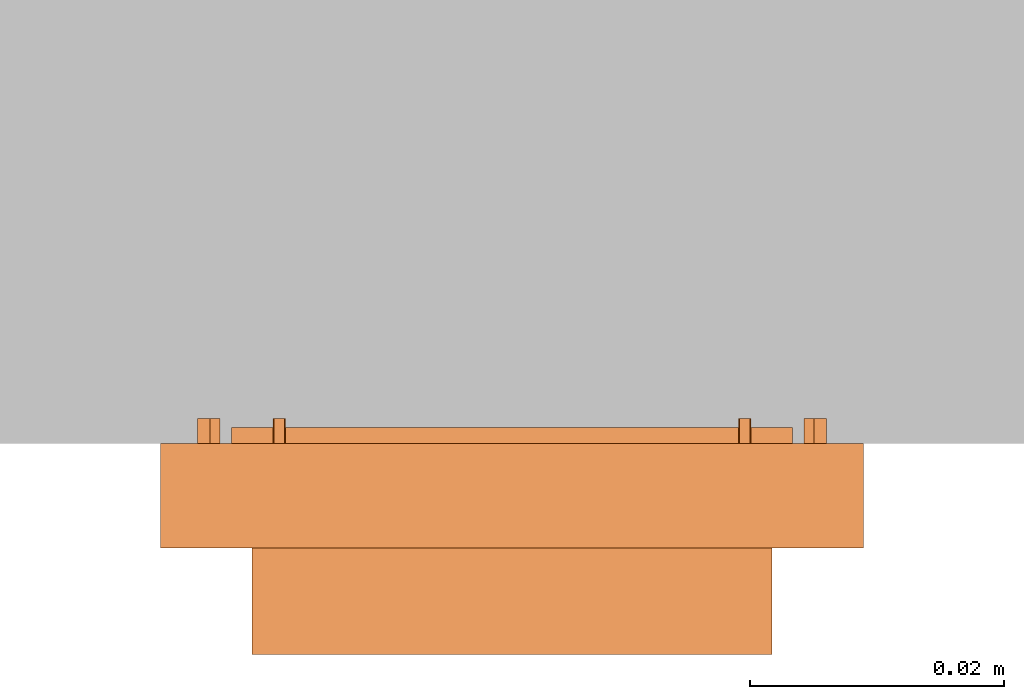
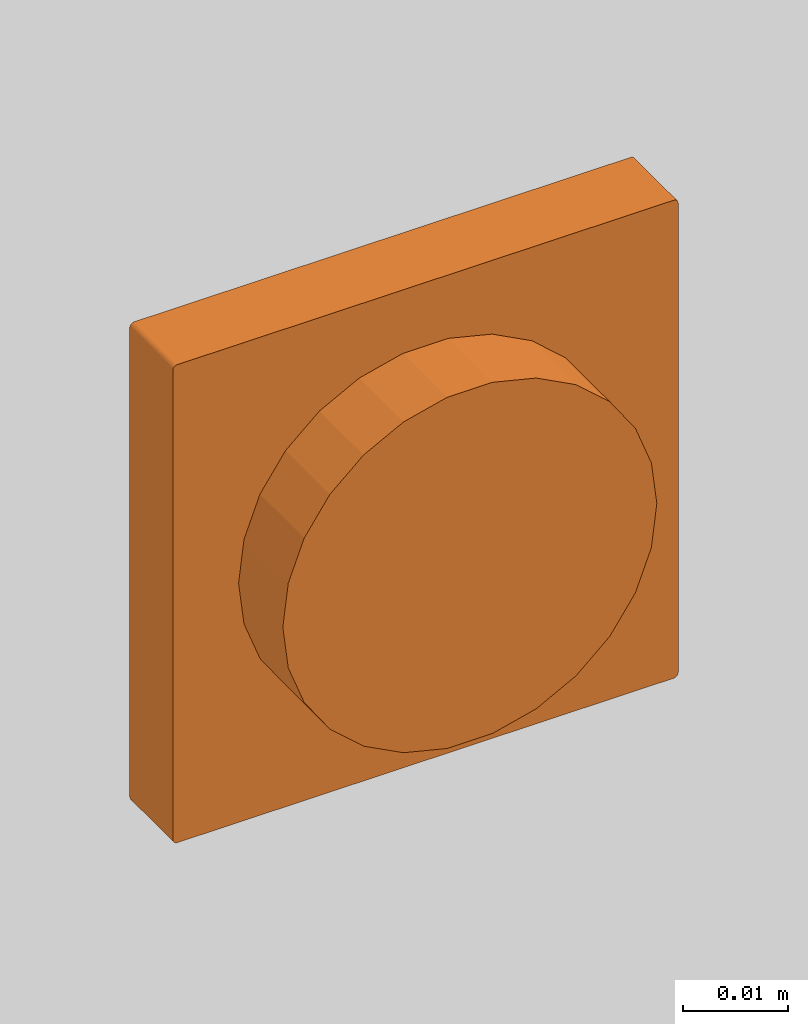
# One storey, part 2 of 2: 1 proxy.
"""IFC2X3 building model written with IfcOpenShell, lengths in metres."""

from ifc_helpers import new_model, entity, si_unit, converted_unit, derived_unit, direction, frame, frame_2d, origin, origin_2d_with_axis, place, context, subcontext, project, spatial, polyline, circle_curve, parameter, trimmed, segment, composite_curve, circle, outline, extrude, source, transform, mapped, material, type_object, type_shapes, element, save


model = new_model("IFC2X3")

# Units and contexts
model_context = context("Model", 3, precision=1e-05, world=origin(), true_north=direction((6.12303176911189e-17, 1.0)))
body_context = subcontext(model_context, "Body", "Model", "MODEL_VIEW")
ifc_project = project(units=[si_unit("LENGTHUNIT", "METRE"), si_unit("AREAUNIT", "SQUARE_METRE"), si_unit("VOLUMEUNIT", "CUBIC_METRE"), converted_unit("PLANEANGLEUNIT", "DEGREE", entity("IfcRatioMeasure", 0.0174532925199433), si_unit("PLANEANGLEUNIT", "RADIAN"), dimensions=[0, 0, 0, 0, 0, 0, 0]), si_unit("MASSUNIT", "GRAM", prefix="KILO"), si_unit("TIMEUNIT", "SECOND"), si_unit("FREQUENCYUNIT", "HERTZ"), si_unit("THERMODYNAMICTEMPERATUREUNIT", "DEGREE_CELSIUS"), derived_unit("THERMALTRANSMITTANCEUNIT", [(si_unit("MASSUNIT", "GRAM", prefix="KILO"), 1), (si_unit("THERMODYNAMICTEMPERATUREUNIT", "KELVIN"), -1), (si_unit("TIMEUNIT", "SECOND"), -3)]), derived_unit("VOLUMETRICFLOWRATEUNIT", [(si_unit("LENGTHUNIT", "METRE"), 3), (si_unit("TIMEUNIT", "SECOND"), -1)]), si_unit("ELECTRICCURRENTUNIT", "AMPERE"), si_unit("ELECTRICVOLTAGEUNIT", "VOLT"), si_unit("POWERUNIT", "WATT"), si_unit("FORCEUNIT", "NEWTON", prefix="KILO"), si_unit("ILLUMINANCEUNIT", "LUX"), si_unit("LUMINOUSFLUXUNIT", "LUMEN"), si_unit("LUMINOUSINTENSITYUNIT", "CANDELA"), derived_unit("USERDEFINED", [(si_unit("MASSUNIT", "GRAM", prefix="KILO"), -1), (si_unit("LENGTHUNIT", "METRE"), -2), (si_unit("TIMEUNIT", "SECOND"), 3), (si_unit("LUMINOUSFLUXUNIT", "LUMEN"), 1)]), derived_unit("LINEARVELOCITYUNIT", [(si_unit("LENGTHUNIT", "METRE"), 1), (si_unit("TIMEUNIT", "SECOND"), -1)]), si_unit("PRESSUREUNIT", "PASCAL"), derived_unit("USERDEFINED", [(si_unit("LENGTHUNIT", "METRE"), -2), (si_unit("MASSUNIT", "GRAM", prefix="KILO"), 1), (si_unit("TIMEUNIT", "SECOND"), -2)])], contexts=[model_context])

# Site, building, storey
site_placement = place(None, origin())
site = spatial("IfcSite", under=ifc_project, at=site_placement, Name="Default", CompositionType="ELEMENT")
building_placement = place(site_placement, origin())
building = spatial("IfcBuilding", under=site, at=building_placement, CompositionType="ELEMENT")
storey_placement = place(building_placement, origin())
storey = spatial("IfcBuildingStorey", under=building, at=storey_placement, Name="Ebene 0", CompositionType="ELEMENT", Elevation=0.0)

# Proxy
ifc_material = material(Name="White")
building_element_proxy_type = type_object("IfcBuildingElementProxyType", Name="GIRA_065226_ENG", PredefinedType="NOTDEFINED", material=ifc_material)
shared_shape = source(origin(), body_context, "Body", "SweptSolid", [
    extrude(outline(polyline([(0.0124903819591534, -0.0367577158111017), (0.0125960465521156, -0.0367946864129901), (0.0127072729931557, -0.0368072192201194), (0.0128184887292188, -0.0367946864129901), (0.0129241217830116, -0.0367577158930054), (0.0130188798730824, -0.0366981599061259), (0.0130980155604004, -0.0366190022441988), (0.0131575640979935, -0.0365242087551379), (0.0367577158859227, 0.0124903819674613), (0.0367946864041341, 0.0125960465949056), (0.0368072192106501, 0.012707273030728), (0.0367946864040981, 0.0128184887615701), (0.0367577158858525, 0.012924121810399), (0.0366981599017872, 0.0130188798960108), (0.0366190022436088, 0.0130980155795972), (0.0365242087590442, 0.0131575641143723), (-0.0124903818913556, 0.0367577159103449), (-0.0125960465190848, 0.036794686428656), (-0.0127072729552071, 0.0368072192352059), (-0.0128184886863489, 0.0367946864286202), (-0.0129241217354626, 0.0367577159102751), (-0.0130188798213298, 0.0366981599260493), (-0.0130980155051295, 0.0366190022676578), (-0.0131575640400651, 0.0365242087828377), (-0.0367577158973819, -0.0124903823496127), (-0.0367946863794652, -0.0125960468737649), (-0.036807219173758, -0.012707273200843), (-0.0367946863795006, -0.0128184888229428), (-0.0367577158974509, -0.0129241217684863), (-0.036698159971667, -0.0130188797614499), (-0.0366190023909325, -0.0130980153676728), (-0.0365242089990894, -0.0131575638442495), (0.0124903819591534, -0.0367577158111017)])), frame((0.0, 0.0, 0.00719999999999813), z_axis=(0.0, 0.0, 1.0), x_axis=(0.433823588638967, -0.900997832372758, 0.0)), (0.0, 0.0, 1.0), 0.000999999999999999),
    extrude(outline(composite_curve([segment(trimmed(circle_curve(frame_2d((0.0, -0.00392499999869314), x_axis=(1.0, 0.0)), 0.00990000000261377), [parameter(3.56222124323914e-13)], [parameter(52.4601073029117)], True, "PARAMETER"), True, "CONTINUOUS"), segment(polyline([(0.00603220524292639, 0.00392499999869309), (-0.00603220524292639, 0.00392499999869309)]), True, "CONTINUOUS"), segment(trimmed(circle_curve(frame_2d((0.0, -0.00392499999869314), x_axis=(1.0, 0.0)), 0.00990000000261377), [parameter(127.539892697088)], [parameter(180.0)], True, "PARAMETER"), True, "CONTINUOUS"), segment(trimmed(circle_curve(frame_2d((0.0, -0.00392499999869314), x_axis=(1.0, 0.0)), 0.00990000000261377), [parameter(180.0)], [parameter(360.0)], True, "PARAMETER"), True, "CONTINUOUS")], self_intersect=False), holes=[composite_curve([segment(trimmed(circle_curve(frame_2d((0.0, -0.00392500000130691), x_axis=(-1.0, 0.0)), 0.00525), [parameter(89.9999999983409)], [parameter(270.00000000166)], True, "PARAMETER"), False, "CONTINUOUS"), segment(trimmed(circle_curve(frame_2d((0.0, -0.00392500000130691), x_axis=(-1.0, 0.0)), 0.00525), [parameter(269.999999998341)], [parameter(90.0000000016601)], True, "PARAMETER"), False, "CONTINUOUS")], self_intersect=False)]), frame((0.0, -0.00392500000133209, 0.000199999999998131), z_axis=(0.0, 0.0, 1.0), x_axis=(-1.0, 0.0, 0.0)), (0.0, 0.0, 1.0), 0.006),
    extrude(outline(composite_curve([segment(trimmed(circle_curve(origin_2d_with_axis(), 0.0220999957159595), [parameter(0.0)], [parameter(180.0)], True, "PARAMETER"), True, "CONTINUOUS"), segment(trimmed(circle_curve(origin_2d_with_axis(), 0.0220999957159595), [parameter(180.0)], [parameter(360.0)], True, "PARAMETER"), True, "CONTINUOUS")], self_intersect=False), holes=[composite_curve([segment(trimmed(circle_curve(frame_2d((4.99625952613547e-09, 1.77921753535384e-09), x_axis=(-1.0, 0.0)), 0.00990000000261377), [parameter(127.539892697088)], [parameter(180.0)], True, "PARAMETER"), False, "CONTINUOUS"), segment(polyline([(0.00603221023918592, -0.0078499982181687), (0.0140000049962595, -0.0078499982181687)]), True, "CONTINUOUS"), segment(polyline([(0.0140000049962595, -0.0078499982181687), (0.0140000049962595, -0.0153999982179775)]), True, "CONTINUOUS"), segment(trimmed(circle_curve(frame_2d((0.0122500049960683, -0.0153999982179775), x_axis=(1.0, 0.0)), 0.00175000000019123), [parameter(269.999999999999)], [parameter(360.0)], True, "PARAMETER"), False, "CONTINUOUS"), segment(polyline([(0.0122500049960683, -0.017149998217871), (0.0068000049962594, -0.017149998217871)]), True, "CONTINUOUS"), segment(polyline([(0.0068000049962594, -0.017149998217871), (0.0068000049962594, -0.0181499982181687)]), True, "CONTINUOUS"), segment(polyline([(0.0068000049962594, -0.0181499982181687), (-0.000999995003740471, -0.0181499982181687)]), True, "CONTINUOUS"), segment(polyline([(-0.000999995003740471, -0.0181499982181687), (-0.000999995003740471, -0.0171499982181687)]), True, "CONTINUOUS"), segment(polyline([(-0.000999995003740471, -0.0171499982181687), (-0.0122499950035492, -0.0171499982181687)]), True, "CONTINUOUS"), segment(trimmed(circle_curve(frame_2d((-0.0122499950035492, -0.0153999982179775), x_axis=(1.0, 0.0)), 0.00175000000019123), [parameter(180.0)], [parameter(269.999999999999)], True, "PARAMETER"), False, "CONTINUOUS"), segment(polyline([(-0.0139999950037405, -0.0153999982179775), (-0.0139999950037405, -0.0078499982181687)]), True, "CONTINUOUS"), segment(polyline([(-0.0139999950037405, -0.0078499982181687), (-0.00603220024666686, -0.0078499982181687)]), True, "CONTINUOUS"), segment(trimmed(circle_curve(frame_2d((4.99625952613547e-09, 1.77921753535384e-09), x_axis=(-1.0, 0.0)), 0.00990000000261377), [parameter(3.05333249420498e-13)], [parameter(52.4601073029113)], True, "PARAMETER"), False, "CONTINUOUS"), segment(trimmed(circle_curve(frame_2d((4.99625952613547e-09, 1.77921753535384e-09), x_axis=(-1.0, 0.0)), 0.00990000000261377), [parameter(180.0)], [parameter(0.0)], True, "PARAMETER"), False, "CONTINUOUS")], self_intersect=False), composite_curve([segment(trimmed(circle_curve(frame_2d((0.0050000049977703, 0.0185000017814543), x_axis=(1.0, 0.0)), 0.00200000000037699), [parameter(180.0)], [parameter(360.0)], True, "PARAMETER"), False, "CONTINUOUS"), segment(trimmed(circle_curve(frame_2d((0.0050000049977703, 0.0185000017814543), x_axis=(1.0, 0.0)), 0.00200000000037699), [parameter(4.07110999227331e-13)], [parameter(180.0)], True, "PARAMETER"), False, "CONTINUOUS")], self_intersect=False)]), frame((-4.99624068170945e-09, -1.78185648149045e-09, -0.00130000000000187)), (0.0, 0.0, 1.0), 0.0075),
    extrude(outline(composite_curve([segment(trimmed(circle_curve(origin_2d_with_axis(), 0.00500000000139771), [parameter(306.869897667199)], [parameter(53.1301023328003)], True, "PARAMETER"), True, "CONTINUOUS"), segment(polyline([(0.00300000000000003, 0.00399999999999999), (-0.00300000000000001, 0.00400000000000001)]), True, "CONTINUOUS"), segment(trimmed(circle_curve(origin_2d_with_axis(), 0.00500000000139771), [parameter(126.8698976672)], [parameter(233.1301023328)], True, "PARAMETER"), True, "CONTINUOUS"), segment(polyline([(-0.00300000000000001, -0.00399999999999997), (0.00300000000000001, -0.00399999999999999)]), True, "CONTINUOUS")], self_intersect=False)), frame((0.0, 0.0, -0.000800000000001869), z_axis=(0.0, 0.0, 1.0), x_axis=(-1.0, 0.0, 0.0)), (0.0, 0.0, 1.0), 0.007),
    extrude(outline(composite_curve([segment(polyline([(-0.00049999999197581, -0.000399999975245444), (0.000499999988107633, -0.000399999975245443)]), True, "CONTINUOUS"), segment(trimmed(circle_curve(frame_2d((0.000800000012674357, 0.0), x_axis=(-1.0, 0.0)), 0.000499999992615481), [parameter(53.1300982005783)], [parameter(306.869900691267)], True, "PARAMETER"), True, "CONTINUOUS"), segment(polyline([(0.000499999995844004, 0.000399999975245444), (-0.000499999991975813, 0.000399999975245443)]), True, "CONTINUOUS"), segment(polyline([(-0.000499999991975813, 0.000399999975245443), (-0.00049999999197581, -0.000399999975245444)]), True, "CONTINUOUS")], self_intersect=False)), frame((0.0183499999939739, 0.0243000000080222, -0.00200000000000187), z_axis=(0.0, 0.0, 1.0), x_axis=(0.0, -1.0, 0.0)), (0.0, 0.0, 1.0), 0.0082),
    extrude(outline(composite_curve([segment(polyline([(-0.00049999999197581, -0.000399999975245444), (0.000499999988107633, -0.000399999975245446)]), True, "CONTINUOUS"), segment(trimmed(circle_curve(frame_2d((0.000800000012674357, 0.0), x_axis=(-1.0, 0.0)), 0.000499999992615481), [parameter(53.1300982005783)], [parameter(306.869900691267)], True, "PARAMETER"), True, "CONTINUOUS"), segment(polyline([(0.000499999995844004, 0.000399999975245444), (-0.000499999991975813, 0.000399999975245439)]), True, "CONTINUOUS"), segment(polyline([(-0.000499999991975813, 0.000399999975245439), (-0.00049999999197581, -0.000399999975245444)]), True, "CONTINUOUS")], self_intersect=False)), frame((-0.0183500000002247, 0.0243000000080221, -0.00200000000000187), z_axis=(0.0, 0.0, 1.0), x_axis=(0.0, -1.0, 0.0)), (0.0, 0.0, 1.0), 0.0082),
    extrude(outline(composite_curve([segment(polyline([(-0.000399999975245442, -0.000499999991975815), (0.000399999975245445, -0.000499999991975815)]), True, "CONTINUOUS"), segment(polyline([(0.000399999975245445, -0.000499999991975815), (0.000399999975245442, 0.000499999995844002)]), True, "CONTINUOUS"), segment(trimmed(circle_curve(frame_2d((0.0, 0.000800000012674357), x_axis=(0.0, -1.0)), 0.000499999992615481), [parameter(53.1300993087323)], [parameter(306.869901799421)], True, "PARAMETER"), True, "CONTINUOUS"), segment(polyline([(-0.000399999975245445, 0.000499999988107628), (-0.000399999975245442, -0.000499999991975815)]), True, "CONTINUOUS")], self_intersect=False)), frame((0.0183499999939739, -0.0243000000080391, -0.00200000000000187)), (0.0, 0.0, 1.0), 0.0082),
    extrude(outline(composite_curve([segment(polyline([(-0.000399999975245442, -0.000499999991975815), (0.000399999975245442, -0.000499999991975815)]), True, "CONTINUOUS"), segment(polyline([(0.000399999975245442, -0.000499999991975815), (0.000399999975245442, 0.000499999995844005)]), True, "CONTINUOUS"), segment(trimmed(circle_curve(frame_2d((0.0, 0.000800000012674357), x_axis=(0.0, -1.0)), 0.000499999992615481), [parameter(53.1300993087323)], [parameter(306.869901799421)], True, "PARAMETER"), True, "CONTINUOUS"), segment(polyline([(-0.000399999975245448, 0.000499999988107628), (-0.000399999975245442, -0.000499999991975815)]), True, "CONTINUOUS")], self_intersect=False)), frame((-0.0183500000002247, -0.024300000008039, -0.00200000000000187)), (0.0, 0.0, 1.0), 0.0082),
    extrude(outline(composite_curve([segment(polyline([(-0.000499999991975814, -0.000399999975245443), (0.000499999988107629, -0.000399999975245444)]), True, "CONTINUOUS"), segment(trimmed(circle_curve(frame_2d((0.000800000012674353, 0.0), x_axis=(-1.0, 0.0)), 0.000499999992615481), [parameter(53.1300982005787)], [parameter(306.869900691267)], True, "PARAMETER"), True, "CONTINUOUS"), segment(polyline([(0.000499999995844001, 0.000399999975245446), (-0.000499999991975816, 0.000399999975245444)]), True, "CONTINUOUS"), segment(polyline([(-0.000499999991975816, 0.000399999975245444), (-0.000499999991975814, -0.000399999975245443)]), True, "CONTINUOUS")], self_intersect=False)), frame((0.0243000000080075, -0.0183499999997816, -0.00200000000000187), z_axis=(0.0, 0.0, 1.0), x_axis=(-1.0, 0.0, 0.0)), (0.0, 0.0, 1.0), 0.0082),
    extrude(outline(composite_curve([segment(polyline([(-0.000499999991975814, -0.000399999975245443), (0.000499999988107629, -0.000399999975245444)]), True, "CONTINUOUS"), segment(trimmed(circle_curve(frame_2d((0.000800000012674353, 0.0), x_axis=(-1.0, 0.0)), 0.000499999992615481), [parameter(53.1300982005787)], [parameter(306.869900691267)], True, "PARAMETER"), True, "CONTINUOUS"), segment(polyline([(0.000499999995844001, 0.000399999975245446), (-0.000499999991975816, 0.000399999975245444)]), True, "CONTINUOUS"), segment(polyline([(-0.000499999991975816, 0.000399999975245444), (-0.000499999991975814, -0.000399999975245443)]), True, "CONTINUOUS")], self_intersect=False)), frame((0.0243000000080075, 0.0183500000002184, -0.00200000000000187), z_axis=(0.0, 0.0, 1.0), x_axis=(-1.0, 0.0, 0.0)), (0.0, 0.0, 1.0), 0.0082),
    extrude(outline(composite_curve([segment(polyline([(-0.000399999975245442, -0.000499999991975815), (0.000399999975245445, -0.000499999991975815)]), True, "CONTINUOUS"), segment(polyline([(0.000399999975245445, -0.000499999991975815), (0.000399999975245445, 0.000499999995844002)]), True, "CONTINUOUS"), segment(trimmed(circle_curve(frame_2d((0.0, 0.000800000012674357), x_axis=(0.0, -1.0)), 0.000499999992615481), [parameter(53.1300993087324)], [parameter(306.869901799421)], True, "PARAMETER"), True, "CONTINUOUS"), segment(polyline([(-0.000399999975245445, 0.000499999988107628), (-0.000399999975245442, -0.000499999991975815)]), True, "CONTINUOUS")], self_intersect=False)), frame((-0.024300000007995, -0.0183499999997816, -0.00200000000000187), z_axis=(0.0, 0.0, 1.0), x_axis=(0.0, -1.0, 0.0)), (0.0, 0.0, 1.0), 0.0082),
    extrude(outline(composite_curve([segment(polyline([(-0.000399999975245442, -0.000499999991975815), (0.000399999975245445, -0.000499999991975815)]), True, "CONTINUOUS"), segment(polyline([(0.000399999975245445, -0.000499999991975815), (0.000399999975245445, 0.000499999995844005)]), True, "CONTINUOUS"), segment(trimmed(circle_curve(frame_2d((0.0, 0.000800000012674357), x_axis=(0.0, -1.0)), 0.000499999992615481), [parameter(53.1300993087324)], [parameter(306.869901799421)], True, "PARAMETER"), True, "CONTINUOUS"), segment(polyline([(-0.000399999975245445, 0.000499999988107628), (-0.000399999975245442, -0.000499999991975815)]), True, "CONTINUOUS")], self_intersect=False)), frame((-0.0243000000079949, 0.0183500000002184, -0.00200000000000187), z_axis=(0.0, 0.0, 1.0), x_axis=(0.0, -1.0, 0.0)), (0.0, 0.0, 1.0), 0.0082),
    extrude(outline(polyline([(0.0124903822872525, -0.0367577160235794), (0.0125960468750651, -0.0367946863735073), (0.0127072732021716, -0.0368072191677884), (0.0128184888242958, -0.0367946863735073), (0.0129241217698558, -0.0367577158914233), (0.0130188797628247, -0.0366981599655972), (0.013098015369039, -0.0366190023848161), (0.0131575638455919, -0.0365242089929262), (0.0367577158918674, 0.0124903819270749), (0.0367946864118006, 0.0125960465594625), (0.0368072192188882, 0.0127072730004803), (0.0367946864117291, 0.0128184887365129), (0.0367577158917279, 0.0129241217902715), (0.0366981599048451, 0.0130188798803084), (0.0366190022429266, 0.0130980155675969), (0.0365242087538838, 0.0131575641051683), (-0.0124903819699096, 0.0367577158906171), (-0.0125960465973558, 0.0367946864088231), (-0.0127072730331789, 0.0368072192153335), (-0.0128184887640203, 0.0367946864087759), (-0.0129241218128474, 0.036757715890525), (-0.0130188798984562, 0.0366981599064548), (-0.0130980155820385, 0.0366190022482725), (-0.0131575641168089, 0.0365242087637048), (-0.036757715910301, -0.0124903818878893), (-0.0367946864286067, -0.0125960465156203), (-0.036807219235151, -0.0127072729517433), (-0.0367946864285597, -0.0128184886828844), (-0.0367577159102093, -0.0129241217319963), (-0.0366981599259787, -0.0130188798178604), (-0.0366190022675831, -0.0130980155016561), (-0.0365242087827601, -0.0131575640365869), (0.0124903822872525, -0.0367577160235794)]), holes=[polyline([(-0.0282598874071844, -0.0154719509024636), (-0.0349723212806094, -0.0122399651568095), (-0.0317403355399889, -0.0055275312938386), (-0.0304789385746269, -0.00613488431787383), (-0.0301318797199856, -0.00541408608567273), (-0.0313932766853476, -0.00480673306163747), (-0.0158190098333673, 0.0275390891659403), (-0.0145576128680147, 0.0269317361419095), (-0.0142105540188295, 0.0276525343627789), (-0.0154719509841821, 0.0282598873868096), (-0.0122399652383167, 0.0349723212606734), (-0.00552753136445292, 0.031740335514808), (-0.00613488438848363, 0.0304789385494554), (-0.00541408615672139, 0.0301318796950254), (-0.00480673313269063, 0.0313932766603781), (0.027539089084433, 0.0158190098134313), (0.0269317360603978, 0.0145576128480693), (0.027652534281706, 0.0142105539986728), (0.0282598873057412, 0.0154719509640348), (0.0349723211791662, 0.0122399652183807), (0.0317403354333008, 0.0055275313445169), (0.0304789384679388, 0.00613488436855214), (0.0301318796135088, 0.00541408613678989), (0.0313932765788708, 0.00480673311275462), (0.0158190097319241, -0.027539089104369), (0.0145576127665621, -0.0269317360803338), (0.0142105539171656, -0.027652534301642), (0.0154719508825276, -0.0282598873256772), (0.0122399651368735, -0.0349723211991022), (0.00552753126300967, -0.0317403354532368), (0.00613488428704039, -0.0304789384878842), (0.00541408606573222, -0.0301318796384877), (0.00480673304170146, -0.0313932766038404), (-0.0275390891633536, -0.0158190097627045), (-0.0269317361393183, -0.0145576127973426), (-0.0276525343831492, -0.0142105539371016), (-0.0282598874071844, -0.0154719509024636)])]), frame((0.0, 0.0, 0.0), z_axis=(0.0, 0.0, 1.0), x_axis=(-0.900997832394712, -0.433823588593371, 0.0)), (0.0, 0.0, 1.0), 0.0072),
    extrude(circle(Radius=0.0205000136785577, at=frame_2d((0.00152387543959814, -0.000611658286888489), x_axis=(1.0, 0.0))), frame((0.00152387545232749, -0.000611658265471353, 0.00819999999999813), z_axis=(0.0, 0.0, 1.0), x_axis=(-1.0, 0.0, 0.0)), (0.0, 0.0, 1.0), 0.0084),
])
type_shapes(building_element_proxy_type, [shared_shape])
proxy_placement = place(storey_placement, frame((-4.68954748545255, 5.58487313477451, 1.58324809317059), z_axis=(0.0, -1.0, 0.0), x_axis=(1.0, 0.0, 0.0)))
element("IfcBuildingElementProxy", 1, at=proxy_placement, inside=storey, type_object=building_element_proxy_type, material=ifc_material, Name="GIRA_065226_ENG:GIRA_065226_ENG", ObjectType="GIRA_065226_ENG", context=body_context, shape_type="MappedRepresentation", body=[
    mapped(shared_shape, transform((0.0, 0.0, 0.0), scale=1.0)),
])

save(model, "model.ifc")
